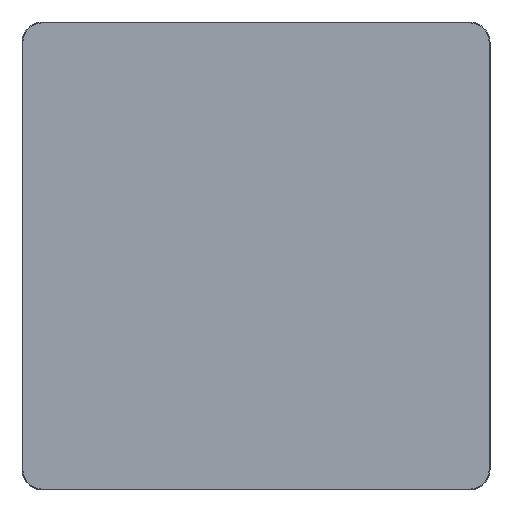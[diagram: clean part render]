
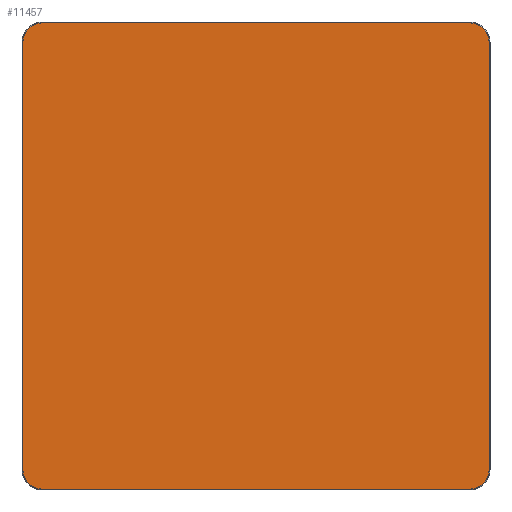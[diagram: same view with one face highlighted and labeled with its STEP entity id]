
A CAD part, top view. The second image highlights one B-rep face of the part: STEP entity #11457.
In plain terms, the highlighted planar face has unit normal (0, 0, 1).
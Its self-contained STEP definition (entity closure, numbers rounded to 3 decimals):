
#11382=CARTESIAN_POINT('',(0.,0.,20.));
#11383=DIRECTION('',(1.,0.,0.));
#11384=DIRECTION('',(0.,0.,1.));
#11385=AXIS2_PLACEMENT_3D('',#11382,#11384,#11383);
#11386=PLANE('',#11385);
#11387=CARTESIAN_POINT('',(-365.,-398.5,20.));
#11388=VERTEX_POINT('',#11387);
#11389=CARTESIAN_POINT('',(365.,-398.5,20.));
#11390=VERTEX_POINT('',#11389);
#11391=CARTESIAN_POINT('',(-365.,-398.5,20.));
#11392=DIRECTION('',(1.,0.,0.));
#11393=VECTOR('',#11392,730.);
#11394=LINE('',#11391,#11393);
#11395=EDGE_CURVE('',#11388,#11390,#11394,.T.);
#11396=ORIENTED_EDGE('E105',*,*,#11395,.T.);
#11397=CARTESIAN_POINT('',(398.5,-365.,20.));
#11398=VERTEX_POINT('',#11397);
#11399=CARTESIAN_POINT('',(365.,-365.,20.));
#11400=DIRECTION('',(0.,-1.,0.));
#11401=DIRECTION('',(0.,0.,1.));
#11402=AXIS2_PLACEMENT_3D('',#11399,#11401,#11400);
#11403=CIRCLE('',#11402,33.5);
#11404=EDGE_CURVE('',#11390,#11398,#11403,.T.);
#11405=ORIENTED_EDGE('E107',*,*,#11404,.T.);
#11406=CARTESIAN_POINT('',(398.5,365.,20.));
#11407=VERTEX_POINT('',#11406);
#11408=CARTESIAN_POINT('',(398.5,-365.,20.));
#11409=DIRECTION('',(0.,1.,0.));
#11410=VECTOR('',#11409,730.);
#11411=LINE('',#11408,#11410);
#11412=EDGE_CURVE('',#11398,#11407,#11411,.T.);
#11413=ORIENTED_EDGE('E109',*,*,#11412,.T.);
#11414=CARTESIAN_POINT('',(365.,398.5,20.));
#11415=VERTEX_POINT('',#11414);
#11416=CARTESIAN_POINT('',(365.,365.,20.));
#11417=DIRECTION('',(1.,0.,0.));
#11418=DIRECTION('',(0.,0.,1.));
#11419=AXIS2_PLACEMENT_3D('',#11416,#11418,#11417);
#11420=CIRCLE('',#11419,33.5);
#11421=EDGE_CURVE('',#11407,#11415,#11420,.T.);
#11422=ORIENTED_EDGE('E111',*,*,#11421,.T.);
#11423=CARTESIAN_POINT('',(-365.,398.5,20.));
#11424=VERTEX_POINT('',#11423);
#11425=CARTESIAN_POINT('',(365.,398.5,20.));
#11426=DIRECTION('',(-1.,0.,0.));
#11427=VECTOR('',#11426,730.);
#11428=LINE('',#11425,#11427);
#11429=EDGE_CURVE('',#11415,#11424,#11428,.T.);
#11430=ORIENTED_EDGE('E113',*,*,#11429,.T.);
#11431=CARTESIAN_POINT('',(-398.5,365.,20.));
#11432=VERTEX_POINT('',#11431);
#11433=CARTESIAN_POINT('',(-365.,365.,20.));
#11434=DIRECTION('',(0.,1.,0.));
#11435=DIRECTION('',(0.,0.,1.));
#11436=AXIS2_PLACEMENT_3D('',#11433,#11435,#11434);
#11437=CIRCLE('',#11436,33.5);
#11438=EDGE_CURVE('',#11424,#11432,#11437,.T.);
#11439=ORIENTED_EDGE('E115',*,*,#11438,.T.);
#11440=CARTESIAN_POINT('',(-398.5,-365.,20.));
#11441=VERTEX_POINT('',#11440);
#11442=CARTESIAN_POINT('',(-398.5,365.,20.));
#11443=DIRECTION('',(0.,-1.,0.));
#11444=VECTOR('',#11443,730.);
#11445=LINE('',#11442,#11444);
#11446=EDGE_CURVE('',#11432,#11441,#11445,.T.);
#11447=ORIENTED_EDGE('E117',*,*,#11446,.T.);
#11448=CARTESIAN_POINT('',(-365.,-365.,20.));
#11449=DIRECTION('',(-1.,0.,0.));
#11450=DIRECTION('',(0.,0.,1.));
#11451=AXIS2_PLACEMENT_3D('',#11448,#11450,#11449);
#11452=CIRCLE('',#11451,33.5);
#11453=EDGE_CURVE('',#11441,#11388,#11452,.T.);
#11454=ORIENTED_EDGE('E119',*,*,#11453,.T.);
#11455=EDGE_LOOP('',(#11396,#11405,#11413,#11422,#11430,#11439,#11447,#11454));
#11456=FACE_OUTER_BOUND('',#11455,.T.);
#11457=ADVANCED_FACE('F2',(#11456),#11386,.T.);
